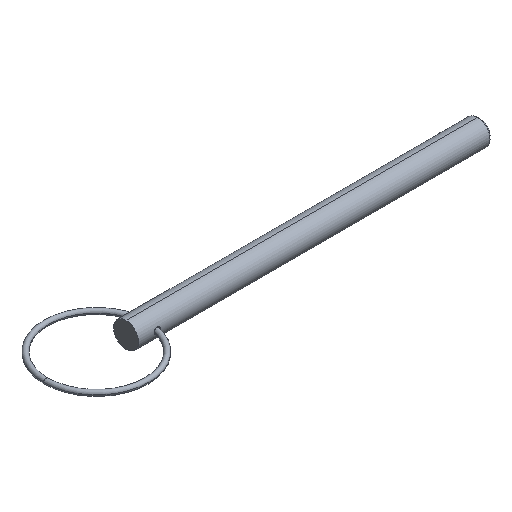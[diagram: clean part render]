
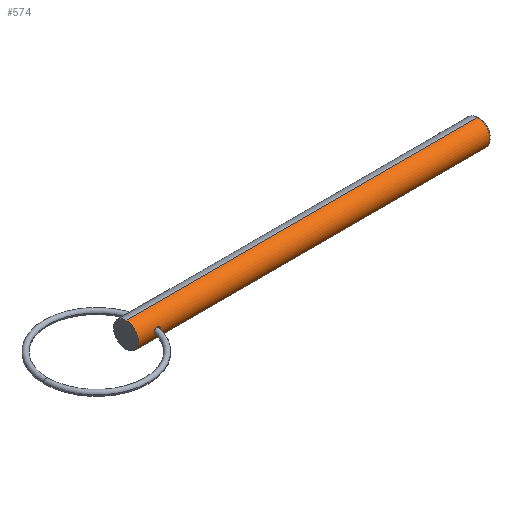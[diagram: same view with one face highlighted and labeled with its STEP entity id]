
A CAD part, isometric view. The second image highlights one B-rep face of the part: STEP entity #574.
In plain terms, the highlighted cylindrical face has radius 3.175 mm (diameter 6.35 mm), a partial arc.
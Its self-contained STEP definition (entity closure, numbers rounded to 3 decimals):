
#11 = EDGE_CURVE ( 'NONE', #185, #566, #220, .T. ) ;
#13 = VERTEX_POINT ( 'NONE', #521 ) ;
#15 = DIRECTION ( 'NONE',  ( 1., 0., 0. ) ) ;
#16 = CARTESIAN_POINT ( 'NONE',  ( 5.188, -3.097, -0.702 ) ) ;
#17 = CARTESIAN_POINT ( 'NONE',  ( 88.916, 0., 3.175 ) ) ;
#19 = CARTESIAN_POINT ( 'NONE',  ( 4.992, -3.078, 0.778 ) ) ;
#24 = CARTESIAN_POINT ( 'NONE',  ( 5.189, -3.097, 0.702 ) ) ;
#32 = CARTESIAN_POINT ( 'NONE',  ( 4.567, -3.075, 0.789 ) ) ;
#54 = EDGE_CURVE ( 'NONE', #566, #185, #319, .T. ) ;
#59 = CARTESIAN_POINT ( 'NONE',  ( 0., 0., 3.175 ) ) ;
#72 = CIRCLE ( 'NONE', #302, 3.175 ) ;
#76 = DIRECTION ( 'NONE',  ( 1., 0., 0. ) ) ;
#77 = CARTESIAN_POINT ( 'NONE',  ( 4.568, -3.075, -0.789 ) ) ;
#82 = CARTESIAN_POINT ( 'NONE',  ( 5.59, -3.175, 0.106 ) ) ;
#83 = DIRECTION ( 'NONE',  ( 0., 0., -1. ) ) ;
#84 = CARTESIAN_POINT ( 'NONE',  ( 4.36, -3.099, 0.705 ) ) ;
#85 = CIRCLE ( 'NONE', #498, 3.175 ) ;
#89 = CARTESIAN_POINT ( 'NONE',  ( 5.504, -3.15, -0.423 ) ) ;
#132 = ORIENTED_EDGE ( 'NONE', *, *, #11, .T. ) ;
#141 = CARTESIAN_POINT ( 'NONE',  ( 0., 0., 0. ) ) ;
#145 = CARTESIAN_POINT ( 'NONE',  ( 4.886, -3.074, 0.796 ) ) ;
#147 = CYLINDRICAL_SURFACE ( 'NONE', #445, 3.175 ) ;
#153 = FACE_BOUND ( 'NONE', #774, .T. ) ;
#160 = CARTESIAN_POINT ( 'NONE',  ( 3.974, -3.169, -0.212 ) ) ;
#185 = VERTEX_POINT ( 'NONE', #351 ) ;
#199 = FACE_OUTER_BOUND ( 'NONE', #398, .T. ) ;
#205 = VERTEX_POINT ( 'NONE', #290 ) ;
#207 = CARTESIAN_POINT ( 'NONE',  ( 5.59, -3.175, -0.212 ) ) ;
#217 = CARTESIAN_POINT ( 'NONE',  ( 5.279, -3.11, -0.644 ) ) ;
#220 = B_SPLINE_CURVE_WITH_KNOTS ( 'NONE', 3,
 ( #529, #257, #776, #463, #658, #84, #32, #145, #19, #24, #332, #720, #335, #396, #82, #392 ),
 .UNSPECIFIED., .F., .F.,
 ( 4, 2, 2, 2, 2, 2, 2, 4 ),
 ( 0., 0.001, 0.001, 0.002, 0.002, 0.002, 0.003, 0.003 ),
 .UNSPECIFIED. ) ;
#241 = DIRECTION ( 'NONE',  ( 1., 0., 0. ) ) ;
#257 = CARTESIAN_POINT ( 'NONE',  ( 3.95, -3.175, 0.106 ) ) ;
#258 = DIRECTION ( 'NONE',  ( 1., 0., 0. ) ) ;
#261 = CARTESIAN_POINT ( 'NONE',  ( 3.95, -3.175, -0.106 ) ) ;
#272 = DIRECTION ( 'NONE',  ( 0., 0., -1. ) ) ;
#273 = CARTESIAN_POINT ( 'NONE',  ( 4.885, -3.074, -0.796 ) ) ;
#290 = CARTESIAN_POINT ( 'NONE',  ( 0., 0., -3.175 ) ) ;
#302 = AXIS2_PLACEMENT_3D ( 'NONE', #364, #76, #587 ) ;
#319 = B_SPLINE_CURVE_WITH_KNOTS ( 'NONE', 3,
 ( #726, #207, #89, #217, #16, #650, #273, #77, #326, #532, #730, #160, #261, #469 ),
 .UNSPECIFIED., .F., .F.,
 ( 4, 2, 2, 2, 2, 2, 4 ),
 ( 0.003, 0.003, 0.004, 0.004, 0.005, 0.005, 0.005 ),
 .UNSPECIFIED. ) ;
#326 = CARTESIAN_POINT ( 'NONE',  ( 4.359, -3.099, -0.704 ) ) ;
#332 = CARTESIAN_POINT ( 'NONE',  ( 5.279, -3.11, 0.644 ) ) ;
#335 = CARTESIAN_POINT ( 'NONE',  ( 5.489, -3.15, 0.407 ) ) ;
#351 = CARTESIAN_POINT ( 'NONE',  ( 3.95, -3.175, 0. ) ) ;
#363 = VERTEX_POINT ( 'NONE', #59 ) ;
#364 = CARTESIAN_POINT ( 'NONE',  ( 88.916, 0., 0. ) ) ;
#381 = ORIENTED_EDGE ( 'NONE', *, *, #602, .F. ) ;
#392 = CARTESIAN_POINT ( 'NONE',  ( 5.59, -3.175, 0. ) ) ;
#395 = CARTESIAN_POINT ( 'NONE',  ( 0., 0., 3.175 ) ) ;
#396 = CARTESIAN_POINT ( 'NONE',  ( 5.569, -3.169, 0.212 ) ) ;
#398 = EDGE_LOOP ( 'NONE', ( #381, #573, #517, #820 ) ) ;
#406 = EDGE_CURVE ( 'NONE', #205, #13, #770, .T. ) ;
#413 = VECTOR ( 'NONE', #594, 1000. ) ;
#445 = AXIS2_PLACEMENT_3D ( 'NONE', #603, #15, #272 ) ;
#460 = VECTOR ( 'NONE', #241, 1000. ) ;
#463 = CARTESIAN_POINT ( 'NONE',  ( 4.063, -3.151, 0.403 ) ) ;
#469 = CARTESIAN_POINT ( 'NONE',  ( 3.95, -3.175, 0. ) ) ;
#478 = EDGE_CURVE ( 'NONE', #496, #13, #72, .T. ) ;
#496 = VERTEX_POINT ( 'NONE', #17 ) ;
#498 = AXIS2_PLACEMENT_3D ( 'NONE', #141, #258, #83 ) ;
#517 = ORIENTED_EDGE ( 'NONE', *, *, #406, .T. ) ;
#521 = CARTESIAN_POINT ( 'NONE',  ( 88.916, 0., -3.175 ) ) ;
#529 = CARTESIAN_POINT ( 'NONE',  ( 3.95, -3.175, 0. ) ) ;
#532 = CARTESIAN_POINT ( 'NONE',  ( 4.127, -3.138, -0.49 ) ) ;
#557 = EDGE_CURVE ( 'NONE', #363, #205, #85, .T. ) ;
#566 = VERTEX_POINT ( 'NONE', #589 ) ;
#573 = ORIENTED_EDGE ( 'NONE', *, *, #557, .T. ) ;
#574 = ADVANCED_FACE ( 'NONE', ( #199, #153 ), #147, .T. ) ;
#587 = DIRECTION ( 'NONE',  ( 0., 0., -1. ) ) ;
#589 = CARTESIAN_POINT ( 'NONE',  ( 5.59, -3.175, 0. ) ) ;
#594 = DIRECTION ( 'NONE',  ( 1., 0., 0. ) ) ;
#602 = EDGE_CURVE ( 'NONE', #363, #496, #716, .T. ) ;
#603 = CARTESIAN_POINT ( 'NONE',  ( 0., 0., 0. ) ) ;
#641 = CARTESIAN_POINT ( 'NONE',  ( 0., 0., -3.175 ) ) ;
#650 = CARTESIAN_POINT ( 'NONE',  ( 4.992, -3.078, -0.778 ) ) ;
#658 = CARTESIAN_POINT ( 'NONE',  ( 4.127, -3.138, 0.49 ) ) ;
#678 = ORIENTED_EDGE ( 'NONE', *, *, #54, .T. ) ;
#716 = LINE ( 'NONE', #395, #413 ) ;
#720 = CARTESIAN_POINT ( 'NONE',  ( 5.429, -3.137, 0.497 ) ) ;
#726 = CARTESIAN_POINT ( 'NONE',  ( 5.59, -3.175, 0. ) ) ;
#730 = CARTESIAN_POINT ( 'NONE',  ( 4.064, -3.151, -0.404 ) ) ;
#770 = LINE ( 'NONE', #641, #460 ) ;
#774 = EDGE_LOOP ( 'NONE', ( #132, #678 ) ) ;
#776 = CARTESIAN_POINT ( 'NONE',  ( 3.974, -3.169, 0.212 ) ) ;
#820 = ORIENTED_EDGE ( 'NONE', *, *, #478, .F. ) ;
